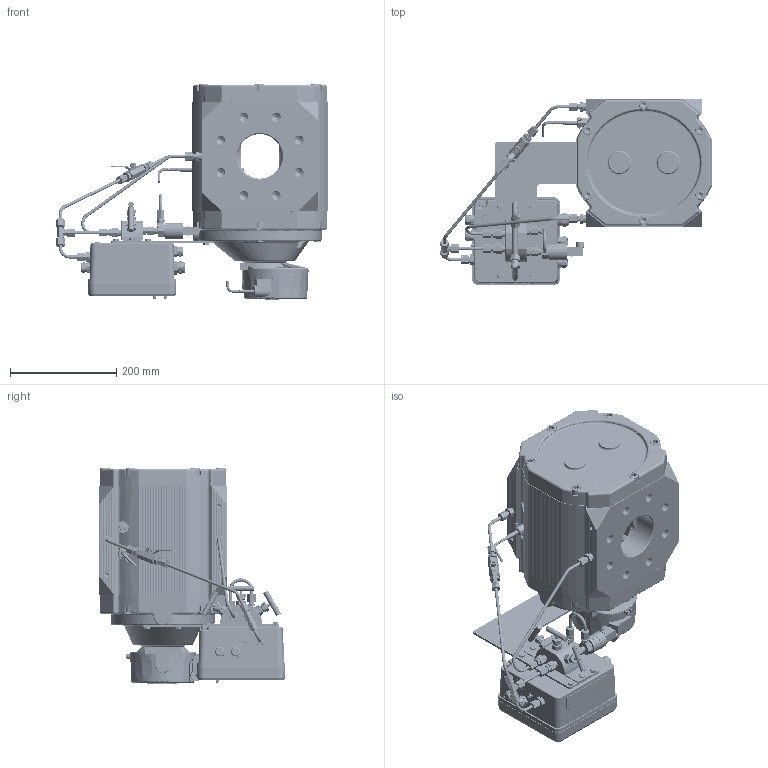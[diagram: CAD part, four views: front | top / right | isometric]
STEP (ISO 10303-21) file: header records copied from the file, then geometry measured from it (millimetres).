
FILE_DESCRIPTION(('STEP AP242'), '1');
FILE_NAME('ÑÃ-ÝÊÐ-Ð-250 c ÏÏÄ ñíèçó ââåðõ, êîðð ñëåâà', '', ('UNSPECIFIED'), ('UNSPECIFIED'), 'C3D Converter', 'C3D Toolkit', '');
FILE_SCHEMA(('AP242_MANAGED_MODEL_BASED_3D_ENGINEERING_MIM_LF { 1 0 10303 442 1 1 4 }'));
Length unit declared in the file: millimetre
Bounding box: 511.94 x 351 x 406.4 mm (x, y, z)
Volume: 10343633.8 mm3; surface area: 1630676.7 mm2
Topology: 177 solids, 178 shells, 9811 faces, 25402 edges, 16485 vertices
Faces by surface type: plane 3351, extrusion 2893, cylinder 1966, cone 886, bspline 370, torus 307, sphere 38
Full cylindrical faces by diameter (mm): 1.5 x8, 1.95 x3, 2 x41, 2.2 x14, 2.3 x8, 2.459 x11, 2.5 x20, 2.791 x2, 3 x24, 3.1 x1, 3.2 x13, 3.242 x7, 3.3 x4, 3.45 x3, 3.459 x2, 3.688 x1, 4 x44, 4.134 x1, 4.3 x12, 4.5 x1, 4.917 x15, 5 x34, 5.2 x12, 5.5 x8, 6 x61, 6.2 x6, 6.5 x6, 6.6 x4, 6.75 x2, 7 x16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
Entity records: 515892 total; most frequent: CARTESIAN_POINT 217556, ORIENTED_EDGE 47693, DIRECTION 35505, EDGE_CURVE 23847, VERTEX_POINT 16386, VECTOR 13515, EDGE_LOOP 12201, B_SPLINE_CURVE_WITH_KNOTS 11168
